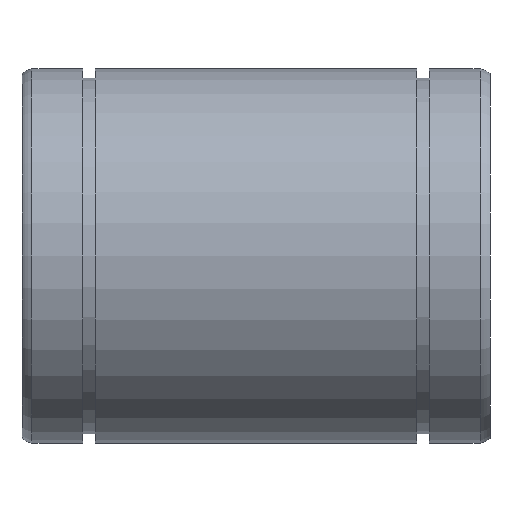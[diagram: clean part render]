
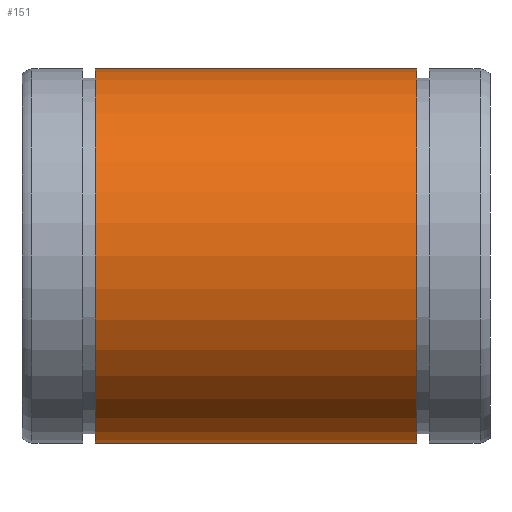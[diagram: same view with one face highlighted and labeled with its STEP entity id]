
A CAD part, front view. The second image highlights one B-rep face of the part: STEP entity #151.
In plain terms, the highlighted cylindrical face has radius 40 mm (diameter 80 mm), a full revolution.
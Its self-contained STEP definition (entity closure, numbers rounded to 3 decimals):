
#117=CARTESIAN_POINT('',(84.4,0.0,40.));
#118=VERTEX_POINT('',#117);
#119=CARTESIAN_POINT('',(84.4,0.0,0.));
#120=DIRECTION('',(-1.0,0.0,0.0));
#121=DIRECTION('',(0.0,0.0,1.0));
#122=AXIS2_PLACEMENT_3D('',#119,#120,#121);
#123=CIRCLE('',#122,40.);
#124=EDGE_CURVE('',#118,#118,#123,.T.);
#132=CARTESIAN_POINT('',(50.,0.0,0.));
#133=DIRECTION('',(-1.0,0.0,0.));
#134=DIRECTION('',(0.0,0.0,1.0));
#135=AXIS2_PLACEMENT_3D('',#132,#133,#134);
#136=CYLINDRICAL_SURFACE('',#135,40.);
#137=CARTESIAN_POINT('',(15.6,0.0,40.));
#138=VERTEX_POINT('',#137);
#139=CARTESIAN_POINT('',(15.6,0.0,0.));
#140=DIRECTION('',(-1.0,0.0,0.0));
#141=DIRECTION('',(0.0,0.0,1.0));
#142=AXIS2_PLACEMENT_3D('',#139,#140,#141);
#143=CIRCLE('',#142,40.);
#144=EDGE_CURVE('',#138,#138,#143,.T.);
#145=ORIENTED_EDGE('',*,*,#144,.F.);
#146=EDGE_LOOP('',(#145));
#147=FACE_OUTER_BOUND('',#146,.T.);
#148=ORIENTED_EDGE('',*,*,#124,.T.);
#149=EDGE_LOOP('',(#148));
#150=FACE_BOUND('',#149,.T.);
#151=ADVANCED_FACE('',(#147,#150),#136,.T.);
